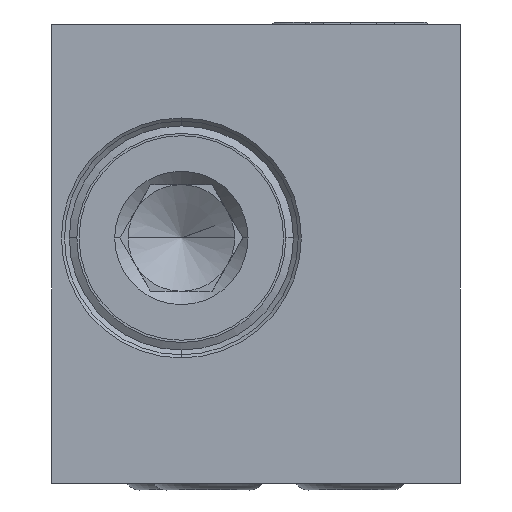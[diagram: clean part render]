
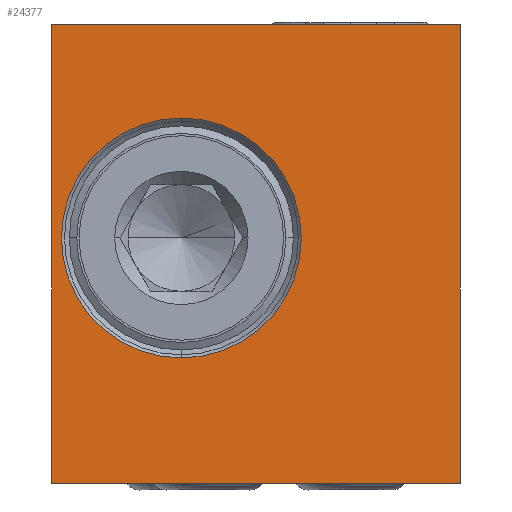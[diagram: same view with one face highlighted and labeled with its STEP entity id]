
A CAD part, left-side view. The second image highlights one B-rep face of the part: STEP entity #24377.
In plain terms, the highlighted planar face has unit normal (-1, 0, 0).
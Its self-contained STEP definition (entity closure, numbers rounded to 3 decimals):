
#4573=DIRECTION('',(0.,0.,1.));
#4574=VECTOR('',#4573,25.8);
#4575=CARTESIAN_POINT('',(-38.,11.5,-12.9));
#4576=LINE('',#4575,#4574);
#4577=DIRECTION('',(0.,-1.,0.));
#4578=VECTOR('',#4577,23.);
#4579=CARTESIAN_POINT('',(-38.,11.5,12.9));
#4580=LINE('',#4579,#4578);
#4581=DIRECTION('',(0.,0.,-1.));
#4582=VECTOR('',#4581,25.8);
#4583=CARTESIAN_POINT('',(-38.,-11.5,12.9));
#4584=LINE('',#4583,#4582);
#4585=DIRECTION('',(0.,1.,0.));
#4586=VECTOR('',#4585,23.);
#4587=CARTESIAN_POINT('',(-38.,-11.5,-12.9));
#4588=LINE('',#4587,#4586);
#4589=CARTESIAN_POINT('',(-38.,4.2,0.9));
#4590=DIRECTION('',(-1.,0.,0.));
#4591=DIRECTION('',(0.,0.,-1.));
#4592=AXIS2_PLACEMENT_3D('',#4589,#4590,#4591);
#4594=CARTESIAN_POINT('',(-38.,4.2,0.9));
#4595=DIRECTION('',(-1.,0.,0.));
#4596=DIRECTION('',(0.,0.,1.));
#4597=AXIS2_PLACEMENT_3D('',#4594,#4595,#4596);
#16627=CARTESIAN_POINT('',(-38.,11.5,12.9));
#16628=VERTEX_POINT('',#16627);
#16629=CARTESIAN_POINT('',(-38.,11.5,-12.9));
#16630=VERTEX_POINT('',#16629);
#16631=CARTESIAN_POINT('',(-38.,-11.5,12.9));
#16632=VERTEX_POINT('',#16631);
#16653=CARTESIAN_POINT('',(-38.,-11.5,-12.9));
#16654=VERTEX_POINT('',#16653);
#16699=CARTESIAN_POINT('',(-38.,4.2,-5.85));
#16700=CARTESIAN_POINT('',(-38.,4.2,7.65));
#16701=VERTEX_POINT('',#16699);
#16702=VERTEX_POINT('',#16700);
#24358=CARTESIAN_POINT('',(-38.,0.,0.));
#24359=DIRECTION('',(-1.,0.,0.));
#24360=DIRECTION('',(0.,-1.,0.));
#24361=AXIS2_PLACEMENT_3D('',#24358,#24359,#24360);
#24362=PLANE('',#24361);
#24363=ORIENTED_EDGE('',*,*,#24351,.T.);
#24364=ORIENTED_EDGE('',*,*,#21827,.T.);
#24366=ORIENTED_EDGE('',*,*,#24365,.T.);
#24368=ORIENTED_EDGE('',*,*,#24367,.T.);
#24369=EDGE_LOOP('',(#24363,#24364,#24366,#24368));
#24370=FACE_OUTER_BOUND('',#24369,.F.);
#24372=ORIENTED_EDGE('',*,*,#24371,.T.);
#24374=ORIENTED_EDGE('',*,*,#24373,.T.);
#24375=EDGE_LOOP('',(#24372,#24374));
#24376=FACE_BOUND('',#24375,.F.);
#24377=ADVANCED_FACE('',(#24370,#24376),#24362,.T.);
#4593=CIRCLE('',#4592,6.75);
#4598=CIRCLE('',#4597,6.75);
#21827=EDGE_CURVE('',#16628,#16632,#4580,.T.);
#24351=EDGE_CURVE('',#16630,#16628,#4576,.T.);
#24365=EDGE_CURVE('',#16632,#16654,#4584,.T.);
#24367=EDGE_CURVE('',#16654,#16630,#4588,.T.);
#24371=EDGE_CURVE('',#16701,#16702,#4593,.T.);
#24373=EDGE_CURVE('',#16702,#16701,#4598,.T.);
